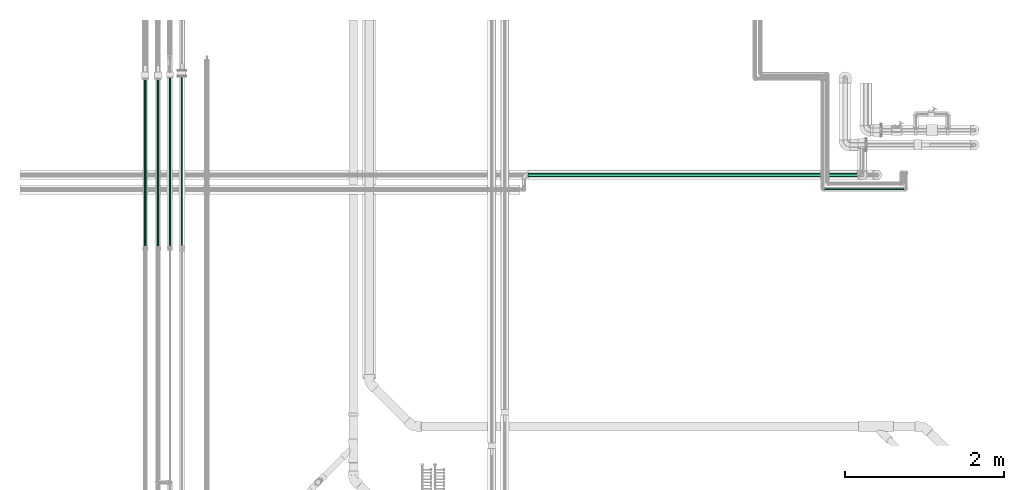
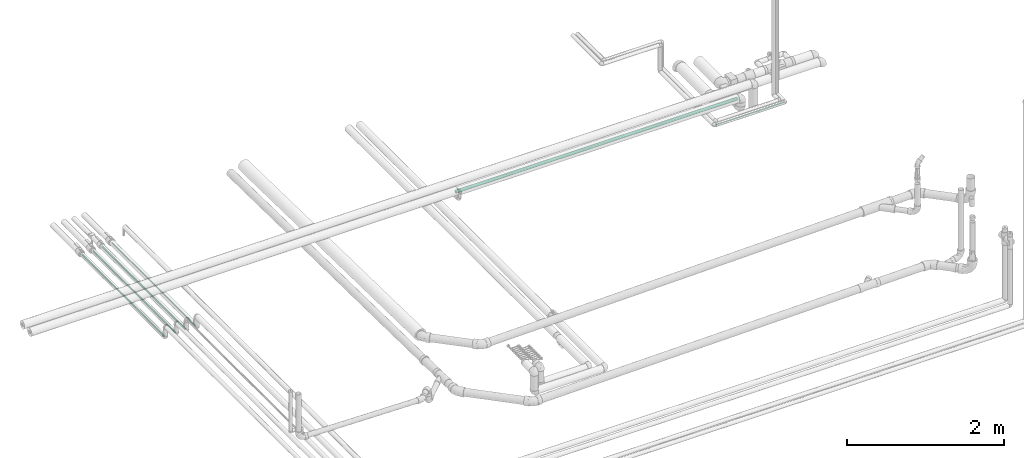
# One storey, part 26 of 83: 6 flow segments.
"""IFC2X3 building model written with IfcOpenShell, lengths in millimetres."""

from ifc_helpers import new_model, entity, si_unit, converted_unit, derived_unit, direction, frame, origin_with_axes, origin_2d_with_axis, place, context, subcontext, project, spatial, hollow_circle, extrude, source, transform, mapped, type_object, element, save


model = new_model("IFC2X3")

# Units and contexts
model_context = context("Model", 3, precision=0.01, world=frame((0.0, 4.29681676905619e-09, 0.0)), true_north=direction((4.01073788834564e-13, 1.0)))
plan_context = context("Plan", 3, precision=0.01, world=frame((0.0, 4.29681676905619e-09, 0.0)), true_north=direction((4.01073788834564e-13, 1.0)))
body_context = subcontext(model_context, "Body", "Model", "MODEL_VIEW")
ifc_project = project(units=[converted_unit("PLANEANGLEUNIT", "DEGREE", entity("IfcPositiveLengthMeasure", 0.0174532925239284), si_unit("PLANEANGLEUNIT", "RADIAN"), dimensions=[0, 0, 0, 0, 0, 0, 0]), si_unit("AREAUNIT", "SQUARE_METRE"), si_unit("LENGTHUNIT", "METRE", prefix="MILLI"), si_unit("MASSUNIT", "GRAM", prefix="KILO"), si_unit("POWERUNIT", "WATT"), si_unit("PRESSUREUNIT", "PASCAL"), si_unit("FORCEUNIT", "NEWTON", prefix="KILO"), si_unit("ELECTRICVOLTAGEUNIT", "VOLT"), si_unit("ELECTRICCURRENTUNIT", "AMPERE"), si_unit("THERMODYNAMICTEMPERATUREUNIT", "DEGREE_CELSIUS"), si_unit("TIMEUNIT", "SECOND"), si_unit("VOLUMEUNIT", "CUBIC_METRE"), derived_unit("LINEARVELOCITYUNIT", [(si_unit("LENGTHUNIT", "METRE"), 1), (si_unit("TIMEUNIT", "SECOND"), -1)]), derived_unit("VOLUMETRICFLOWRATEUNIT", [(si_unit("VOLUMEUNIT", "CUBIC_METRE"), 1), (si_unit("TIMEUNIT", "SECOND"), -1)]), derived_unit("THERMALTRANSMITTANCEUNIT", [(si_unit("POWERUNIT", "WATT"), 1), (si_unit("THERMODYNAMICTEMPERATUREUNIT", "KELVIN"), -1), (si_unit("AREAUNIT", "SQUARE_METRE"), -1)]), derived_unit("SOUNDPRESSUREUNIT", [(si_unit("PRESSUREUNIT", "PASCAL"), 1)])], contexts=[model_context, plan_context])

# Site, building, storey
site_placement = place(None, frame((0.0, -4.29681676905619e-09, 0.0), z_axis=(0.0, 0.0, 1.0), x_axis=(1.0, 0.0, 0.0)))
site = spatial("IfcSite", under=ifc_project, at=site_placement, Name="ENGM", CompositionType="ELEMENT")
building_placement = place(site_placement, frame((0.0, 4.29681676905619e-09, 0.0), z_axis=(0.0, 0.0, 1.0), x_axis=(1.0, 0.0, 0.0)))
building = spatial("IfcBuilding", under=site, at=building_placement, Name="TI", CompositionType="ELEMENT")
storey_placement = place(building_placement, frame((0.0, 0.0, 204000.0), z_axis=(0.0, 0.0, 1.0), x_axis=(1.0, 0.0, 0.0)))
storey = spatial("IfcBuildingStorey", under=building, at=storey_placement, Name="Nivå D", CompositionType="ELEMENT", Elevation=204000.0)

# Flow segments
pipe_segment_type_1 = type_object("IfcPipeSegmentType", Name="Stålrør normaltykke", PredefinedType="RIGIDSEGMENT")
shared_shape_1 = source(origin_with_axes(), body_context, "Body", "SweptSolid", [
    extrude(hollow_circle(Radius=24.1, WallThickness=2.0, at=origin_2d_with_axis()), frame((0.0, 0.0, 0.0), z_axis=(1.0, 0.0, 0.0), x_axis=(0.0, 1.0, 0.0)), (0.0, 0.0, 1.0), 4145.8),
])
flow_segment_1_placement = place(storey_placement, frame((608520.37351, 697531.0, 6072.06187000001), z_axis=(0.0, 0.0, 1.0), x_axis=(-1.0, 0.0, 0.0)))
element("IfcFlowSegment", 1, at=flow_segment_1_placement, inside=storey, type_object=pipe_segment_type_1, Name="Stålrør normaltykke", context=body_context, shape_type="MappedRepresentation", body=[
    mapped(shared_shape_1, transform((0.0, 0.0, 0.0), scale=1.0)),
])
shared_shape_2 = source(origin_with_axes(), body_context, "Body", "SweptSolid", [
    extrude(hollow_circle(Radius=13.3, WallThickness=2.0, at=origin_2d_with_axis()), frame((0.0, 0.0, 0.0), z_axis=(1.0, 0.0, 0.0), x_axis=(0.0, 1.0, 0.0)), (0.0, 0.0, 1.0), 2091.8),
])
for number, where, z_axis, x_axis in (
    (2, (599571.9743, 698726.37914, 6052.20000000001), (0.0, 0.0, 1.0), (0.0, -1.0, 0.0)),
    (3, (599732.2743, 698726.37914, 6052.16784000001), (-6.999999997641e-06, -2.4999999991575e-05, 0.999999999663), (2.7999999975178e-11, -0.9999999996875, -2.49999999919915e-05)),
):
    element("IfcFlowSegment", number, at=place(storey_placement, frame(where, z_axis=z_axis, x_axis=x_axis)), inside=storey, type_object=pipe_segment_type_1, Name="Stålrør normaltykke", context=body_context, shape_type="MappedRepresentation", body=[
        mapped(shared_shape_2, transform((0.0, 0.0, 0.0), scale=1.0)),
    ])
pipe_segment_type_2 = type_object("IfcPipeSegmentType", Name="Kobberrør", PredefinedType="RIGIDSEGMENT")
shared_shape_3 = source(origin_with_axes(), body_context, "Body", "SweptSolid", [
    extrude(hollow_circle(Radius=14.0, WallThickness=2.0, at=origin_2d_with_axis()), frame((0.0, 0.0, 0.0), z_axis=(1.0, 0.0, 0.0), x_axis=(0.0, 1.0, 0.0)), (0.0, 0.0, 1.0), 2117.3),
])
flow_segment_2_placement = place(storey_placement, frame((599881.50429, 698752.97914, 6052.17455), z_axis=(0.0, 0.0, 1.0), x_axis=(0.0, -1.0, 0.0)))
element("IfcFlowSegment", 4, at=flow_segment_2_placement, inside=storey, type_object=pipe_segment_type_2, Name="Kobberrør", context=body_context, shape_type="MappedRepresentation", body=[
    mapped(shared_shape_3, transform((0.0, 0.0, 0.0), scale=1.0)),
])
shared_shape_4 = source(origin_with_axes(), body_context, "Body", "SweptSolid", [
    extrude(hollow_circle(Radius=9.0, WallThickness=2.0, at=origin_2d_with_axis()), frame((0.0, 0.0, 0.0), z_axis=(1.0, 0.0, 0.0), x_axis=(0.0, 1.0, 0.0)), (0.0, 0.0, 1.0), 2140.0),
])
flow_segment_3_placement = place(storey_placement, frame((600031.9743, 698765.72914, 6052.20000000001), z_axis=(0.0, 0.0, 1.0), x_axis=(0.0, -1.0, 0.0)))
element("IfcFlowSegment", 5, at=flow_segment_3_placement, inside=storey, type_object=pipe_segment_type_2, Name="Kobberrør", context=body_context, shape_type="MappedRepresentation", body=[
    mapped(shared_shape_4, transform((0.0, 0.0, 0.0), scale=1.0)),
])
shared_shape_5 = source(origin_with_axes(), body_context, "Body", "SweptSolid", [
    extrude(hollow_circle(Radius=9.0, WallThickness=2.0, at=origin_2d_with_axis()), frame((0.0, 0.0, 0.0), z_axis=(1.0, 0.0, 0.0), x_axis=(0.0, 1.0, 0.0)), (0.0, 0.0, 1.0), 1004.0),
])
flow_segment_4_placement = place(storey_placement, frame((608095.81817, 697349.51267, 5920.0), z_axis=(0.0, 0.0, 1.0), x_axis=(1.0, 0.0, 0.0)))
element("IfcFlowSegment", 6, at=flow_segment_4_placement, inside=storey, type_object=pipe_segment_type_2, Name="Kobberrør", context=body_context, shape_type="MappedRepresentation", body=[
    mapped(shared_shape_5, transform((0.0, 0.0, 0.0), scale=1.0)),
])

save(model, "model.ifc")
